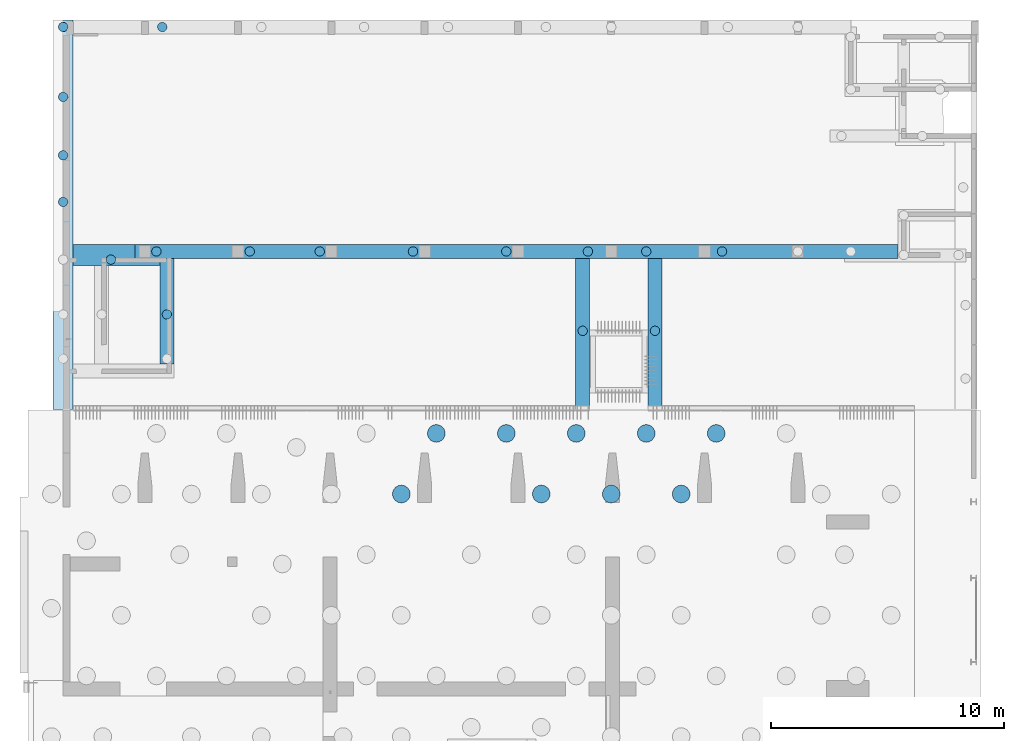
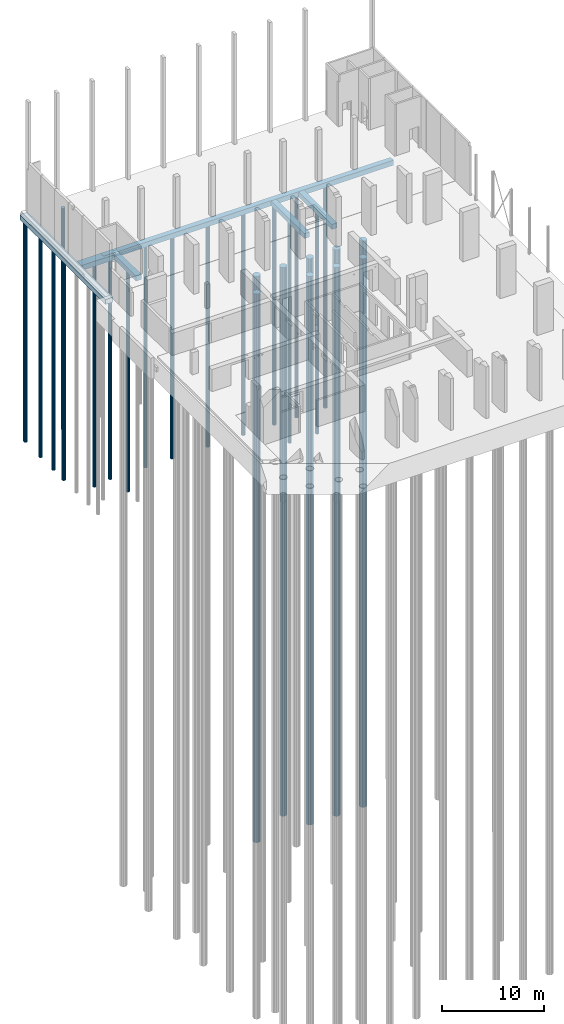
# One storey, part 7 of 26: 26 piles, 6 footings.
"""IFC2X3 building model written with IfcOpenShell, lengths in millimetres."""

import ifcopenshell
import ifcopenshell.guid

model = None  # the IFC model being written
_history = None  # IfcOwnerHistory: only IFC2X3 demands one
_inside = {}  # id of a spatial element -> (the spatial element, [elements in it])
_under = {}  # id of a project, library or spatial element -> (it, [spatial elements below it])
_declared = {}  # id of a project -> (the project, [libraries it declares])
_typed = {}  # id of a type object -> (the type object, [elements of that type])
_made_of = {}  # id of a material, layer set ... -> (it, [elements and type objects made of it])


def new_model(schema):
    """Start an empty IFC model of exactly this schema.

    Asked for "IFC4X3", IfcOpenShell would pick the latest addendum, in which some entities
    have other attributes; the version numbers below select the first issue.
    IFC2X3 requires an IfcOwnerHistory on every rooted entity: one is made here for all.
    """
    global model, _history
    if schema == "IFC4X3":
        model = ifcopenshell.file(schema_version=(4, 3, 0, 0))
    else:
        model = ifcopenshell.file(schema=schema)
    _inside.clear()
    _under.clear()
    _declared.clear()
    _typed.clear()
    _made_of.clear()
    _history = None
    if model.schema == "IFC2X3":
        org = make("IfcOrganization", Name="unknown")
        user = make(
            "IfcPersonAndOrganization",
            ThePerson=make("IfcPerson", FamilyName="unknown"),
            TheOrganization=org,
        )
        app = make(
            "IfcApplication",
            ApplicationDeveloper=org,
            Version="unknown",
            ApplicationFullName="unknown",
            ApplicationIdentifier="unknown",
        )
        _history = make(
            "IfcOwnerHistory",
            OwningUser=user,
            OwningApplication=app,
            ChangeAction="ADDED",
            CreationDate=0,
        )
    return model


def make(cls, **values):
    """One entity of the class cls with the attributes given. An attribute that is None is left unset."""
    return model.create_entity(
        cls, **{name: value for name, value in values.items() if value is not None}
    )


def entity(cls, *values):
    """Any entity or typed value of the class cls, its attributes in the order of the schema. None: left unset."""
    e = model.create_entity(cls)
    for i, value in enumerate(values):
        if value is not None:
            e[i] = value
    return e


def rooted(cls, **values):
    """An entity with a GlobalId (a new one), such as an element, a storey or a relation."""
    return make(cls, GlobalId=ifcopenshell.guid.new(), OwnerHistory=_history, **values)


def si_unit(unit_type, name, prefix=None):
    """IfcSIUnit, for example si_unit("LENGTHUNIT", "METRE", prefix="MILLI")."""
    return make("IfcSIUnit", UnitType=unit_type, Prefix=prefix, Name=name)


def converted_unit(unit_type, name, factor, base, dimensions=None, offset=None):
    """IfcConversionBasedUnit, such as the inch: factor (a typed value) times the base unit."""
    return make(
        "IfcConversionBasedUnit"
        if offset is None
        else "IfcConversionBasedUnitWithOffset",
        ConversionOffset=offset,
        Dimensions=None
        if dimensions is None
        else entity("IfcDimensionalExponents", *dimensions),
        UnitType=unit_type,
        Name=name,
        ConversionFactor=make(
            "IfcMeasureWithUnit", ValueComponent=factor, UnitComponent=base
        ),
    )


def derived_unit(unit_type, elements):
    """IfcDerivedUnit: a product of units, each with its exponent."""
    return make(
        "IfcDerivedUnit",
        Elements=[
            make("IfcDerivedUnitElement", Unit=unit, Exponent=power)
            for unit, power in elements
        ],
        UnitType=unit_type,
    )


def assignment(units):
    """IfcUnitAssignment: the units of a project."""
    return None if units is None else make("IfcUnitAssignment", Units=units)


def point(xyz):
    """IfcCartesianPoint."""
    return None if xyz is None else make("IfcCartesianPoint", Coordinates=xyz)


def direction(xyz):
    """IfcDirection."""
    return None if xyz is None else make("IfcDirection", DirectionRatios=xyz)


def frame(location, z_axis=None, x_axis=None):
    """IfcAxis2Placement3D, a coordinate frame: its origin and axes. An axis left out is left unset."""
    return make(
        "IfcAxis2Placement3D",
        Location=point(location),
        Axis=direction(z_axis),
        RefDirection=direction(x_axis),
    )


def frame_2d(location, x_axis=None):
    """IfcAxis2Placement2D, a coordinate frame in the plane: its origin and x axis."""
    return make(
        "IfcAxis2Placement2D", Location=point(location), RefDirection=direction(x_axis)
    )


def origin():
    """The frame at (0, 0, 0) with its axes left unset."""
    return frame((0.0, 0.0, 0.0))


def place(relative_to, where):
    """IfcLocalPlacement: puts the frame where relative to a parent placement (None: the world)."""
    return make(
        "IfcLocalPlacement", PlacementRelTo=relative_to, RelativePlacement=where
    )


def context(
    kind, dimensions, precision=None, world=None, true_north=None, identifier=None
):
    """IfcGeometricRepresentationContext, for example the 3D "Model" context."""
    return make(
        "IfcGeometricRepresentationContext",
        ContextIdentifier=identifier,
        ContextType=kind,
        CoordinateSpaceDimension=dimensions,
        Precision=precision,
        WorldCoordinateSystem=world,
        TrueNorth=true_north,
    )


def subcontext(parent, identifier, kind, view, scale=None):
    """IfcGeometricRepresentationSubContext, for example "Body" below "Model"."""
    return make(
        "IfcGeometricRepresentationSubContext",
        ContextIdentifier=identifier,
        ContextType=kind,
        ParentContext=parent,
        TargetScale=scale,
        TargetView=view,
    )


def project(units=None, contexts=None):
    """IfcProject with its units and contexts."""
    return rooted(
        "IfcProject",
        Name="project",
        RepresentationContexts=contexts,
        UnitsInContext=assignment(units),
    )


def spatial(cls, under=None, at=None, **own):
    """A site, building, storey or space (cls), placed at a placement, below another one or the project."""
    s = rooted(cls, ObjectPlacement=at, **own)
    if under is not None:
        _under.setdefault(under.id(), (under, []))[1].append(s)
    return s


def polyline(points):
    """IfcPolyline through the points."""
    return make("IfcPolyline", Points=[point(p) for p in points])


def profile(cls, at=None, kind="AREA", **sizes):
    """A parametric profile (cls). Its sizes go by their IFC names, for example OverallWidth=200.0."""
    return make(cls, ProfileType=kind, Position=at, **sizes)


def rectangle(**sizes):
    """IfcRectangleProfileDef."""
    return profile("IfcRectangleProfileDef", **sizes)


def outline(outer, holes=None, kind="AREA"):
    """IfcArbitraryClosedProfileDef: a profile drawn as a closed curve; with holes, ...WithVoids."""
    if holes is None:
        return make("IfcArbitraryClosedProfileDef", ProfileType=kind, OuterCurve=outer)
    return make(
        "IfcArbitraryProfileDefWithVoids",
        ProfileType=kind,
        OuterCurve=outer,
        InnerCurves=holes,
    )


def extrude(swept, where, along, depth):
    """IfcExtrudedAreaSolid: the profile swept, set in the frame where, extruded along a direction by depth."""
    return make(
        "IfcExtrudedAreaSolid",
        SweptArea=swept,
        Position=where,
        ExtrudedDirection=direction(along),
        Depth=depth,
    )


def shape(context_of_items, identifier, shape_type, items):
    """IfcShapeRepresentation: the items that make up one representation, for example the "Body"."""
    return make(
        "IfcShapeRepresentation",
        ContextOfItems=context_of_items,
        RepresentationIdentifier=identifier,
        RepresentationType=shape_type,
        Items=items,
    )


def material(Name=None, Category=None):
    """IfcMaterial."""
    return make("IfcMaterial", Name=Name, Category=Category)


def made_of(thing, what):
    """Note that an element or type object is made of a material, layer set ...; save() writes the relation."""
    if what is not None:
        _made_of.setdefault(what.id(), (what, []))[1].append(thing)
    return thing


def element(
    cls,
    number,
    at=None,
    inside=None,
    cuts=None,
    type_object=None,
    material=None,
    context=None,
    identifier="Body",
    shape_type=None,
    held_by="IfcProductDefinitionShape",
    body=None,
    shapes=None,
    **own,
):
    """One element of the class cls, such as IfcWall. Its Tag is "e" and its number.

    at: its placement. inside: the storey or other place that contains it. cuts: it is an
    opening in that element (IfcRelVoidsElement). A single representation is given by context,
    identifier, shape_type and body (its items); several are given by shapes. held_by: the class
    of the entity that holds the representations. save() writes the other relations.
    """
    e = rooted(cls, Tag="e%d" % number, ObjectPlacement=at, **own)
    if body is not None:
        shapes = [shape(context, identifier, shape_type, body)]
    if shapes is not None:
        e.Representation = make(held_by, Representations=shapes)
    if inside is not None:
        _inside.setdefault(inside.id(), (inside, []))[1].append(e)
    if cuts is not None:
        rooted(
            "IfcRelVoidsElement", RelatingBuildingElement=cuts, RelatedOpeningElement=e
        )
    if type_object is not None:
        _typed.setdefault(type_object.id(), (type_object, []))[1].append(e)
    return made_of(e, material)


def aggregate(whole, parts):
    """IfcRelAggregates: a whole, such as a stair, and the parts it consists of."""
    return rooted("IfcRelAggregates", RelatingObject=whole, RelatedObjects=parts)


def save(model, path):
    """Write the relations noted so far, then the file.

    IfcRelAggregates (storeys below a building ...), IfcRelContainedInSpatialStructure (elements
    in a storey), IfcRelDefinesByType, IfcRelAssociatesMaterial and IfcRelDeclares: one each for
    every whole, place, type object, material and project.
    """
    for whole, parts in _under.values():
        aggregate(whole, parts)
    for where, things in _inside.values():
        rooted(
            "IfcRelContainedInSpatialStructure",
            RelatedElements=things,
            RelatingStructure=where,
        )
    for kind, things in _typed.values():
        rooted("IfcRelDefinesByType", RelatedObjects=things, RelatingType=kind)
    for what, things in _made_of.values():
        rooted("IfcRelAssociatesMaterial", RelatedObjects=things, RelatingMaterial=what)
    for by, libraries in _declared.values():
        rooted("IfcRelDeclares", RelatingContext=by, RelatedDefinitions=libraries)
    model.write(path)


model = new_model("IFC2X3")

# Units and contexts
model_context = context("Model", 3, precision=0.01, world=origin(), true_north=direction((6.12303176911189e-17, 1.0)))
body_context = subcontext(model_context, "Body", "Model", "MODEL_VIEW")
ifc_project = project(units=[si_unit("LENGTHUNIT", "METRE", prefix="MILLI"), si_unit("AREAUNIT", "SQUARE_METRE"), si_unit("VOLUMEUNIT", "CUBIC_METRE"), converted_unit("PLANEANGLEUNIT", "DEGREE", entity("IfcRatioMeasure", 0.0174532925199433), si_unit("PLANEANGLEUNIT", "RADIAN"), dimensions=[0, 0, 0, 0, 0, 0, 0]), si_unit("MASSUNIT", "GRAM", prefix="KILO"), derived_unit("MASSDENSITYUNIT", [(si_unit("MASSUNIT", "GRAM", prefix="KILO"), 1), (si_unit("LENGTHUNIT", "METRE"), -3)]), si_unit("TIMEUNIT", "SECOND"), si_unit("FREQUENCYUNIT", "HERTZ"), si_unit("THERMODYNAMICTEMPERATUREUNIT", "DEGREE_CELSIUS"), derived_unit("THERMALTRANSMITTANCEUNIT", [(si_unit("MASSUNIT", "GRAM", prefix="KILO"), 1), (si_unit("THERMODYNAMICTEMPERATUREUNIT", "KELVIN"), -1), (si_unit("TIMEUNIT", "SECOND"), -3)]), derived_unit("VOLUMETRICFLOWRATEUNIT", [(si_unit("LENGTHUNIT", "METRE"), 3), (si_unit("TIMEUNIT", "SECOND"), -1)]), si_unit("ELECTRICCURRENTUNIT", "AMPERE"), si_unit("ELECTRICVOLTAGEUNIT", "VOLT"), si_unit("POWERUNIT", "WATT"), si_unit("FORCEUNIT", "NEWTON", prefix="KILO"), si_unit("ILLUMINANCEUNIT", "LUX"), si_unit("LUMINOUSFLUXUNIT", "LUMEN"), si_unit("LUMINOUSINTENSITYUNIT", "CANDELA"), derived_unit("USERDEFINED", [(si_unit("MASSUNIT", "GRAM", prefix="KILO"), -1), (si_unit("LENGTHUNIT", "METRE"), -2), (si_unit("TIMEUNIT", "SECOND"), 3), (si_unit("LUMINOUSFLUXUNIT", "LUMEN"), 1)]), derived_unit("LINEARVELOCITYUNIT", [(si_unit("LENGTHUNIT", "METRE"), 1), (si_unit("TIMEUNIT", "SECOND"), -1)]), si_unit("PRESSUREUNIT", "PASCAL"), derived_unit("USERDEFINED", [(si_unit("LENGTHUNIT", "METRE"), -2), (si_unit("MASSUNIT", "GRAM", prefix="KILO"), 1), (si_unit("TIMEUNIT", "SECOND"), -2)])], contexts=[model_context])

# Site, building, storey
site_placement = place(None, origin())
site = spatial("IfcSite", under=ifc_project, at=site_placement, Name="Default", CompositionType="ELEMENT")
building_placement = place(site_placement, origin())
building = spatial("IfcBuilding", under=site, at=building_placement, Name="niet gebruiken", CompositionType="ELEMENT")
storey_placement = place(building_placement, origin())
storey = spatial("IfcBuildingStorey", under=building, at=storey_placement, Name="00 begane grond", CompositionType="ELEMENT", Elevation=0.0)

# Footings
ifc_material = material(Name="NLRS_f2_beton ihwg")
footing_1_placement = place(storey_placement, origin())
element("IfcFooting", 1, at=footing_1_placement, inside=storey, material=ifc_material, Name="NLRS_16.12_SF_WPB_funderingsbalk ihwg recht_gen:600x600", ObjectType="NLRS_16.12_SF_WPB_funderingsbalk ihwg recht_gen:600x600", PredefinedType="FOOTING_BEAM", context=body_context, shape_type="SweptSolid", body=[
    extrude(rectangle(XDim=32700.0000000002, YDim=599.999999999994, at=frame_2d((-1497.49999999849, 191.666666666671), x_axis=(1.0, 0.0))), frame((145187.499999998, 43308.3333333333, -1200.0)), (0.0, 0.0, 1.0), 599.999999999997),
])
footing_2_placement = place(storey_placement, origin())
element("IfcFooting", 2, at=footing_2_placement, inside=storey, material=ifc_material, Name="NLRS_16.12_SF_WPB_funderingsbalk ihwg recht_gen:600x600", ObjectType="NLRS_16.12_SF_WPB_funderingsbalk ihwg recht_gen:600x600", PredefinedType="FOOTING_BEAM", context=body_context, shape_type="SweptSolid", body=[
    extrude(rectangle(XDim=4530.00000000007, YDim=599.999999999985, at=frame_2d((-393.000000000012, -59.9999999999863), x_axis=(1.0, 0.0))), frame((128640.0, 41328.0, -1200.0), z_axis=(0.0, 0.0, 1.0), x_axis=(0.0, 1.0, 0.0)), (0.0, 0.0, 1.0), 599.999999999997),
])
footing_3_placement = place(storey_placement, origin())
element("IfcFooting", 3, at=footing_3_placement, inside=storey, material=ifc_material, Name="NLRS_16.12_SF_WPB_funderingsbalk ihwg recht_gen:850x600", ObjectType="NLRS_16.12_SF_WPB_funderingsbalk ihwg recht_gen:850x600", PredefinedType="FOOTING_BEAM", context=body_context, shape_type="SweptSolid", body=[
    extrude(rectangle(XDim=16705.0000000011, YDim=849.999999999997, at=frame_2d((615.357142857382, -182.142857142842), x_axis=(1.0, 0.0))), frame((124432.142857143, 45687.8571428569, -1200.0), z_axis=(0.0, 0.0, 1.0), x_axis=(0.0, -1.0, 0.0)), (0.0, 0.0, 1.0), 599.999999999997),
])
footing_4_placement = place(storey_placement, origin())
element("IfcFooting", 4, at=footing_4_placement, inside=storey, material=ifc_material, Name="NLRS_16.12_SF_WPB_funderingsbalk ihwg recht_gen:900x600", ObjectType="NLRS_16.12_SF_WPB_funderingsbalk ihwg recht_gen:900x600", PredefinedType="FOOTING_BEAM", context=body_context, shape_type="SweptSolid", body=[
    extrude(outline(polyline([(-1903.74999999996, -300.0), (-978.749999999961, -300.0), (-378.749999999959, -300.0), (1821.25000000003, -300.0), (1821.25000000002, 0.0), (761.249999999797, 0.0), (761.249999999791, 600.0), (-1903.74999999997, 600.0), (-1903.74999999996, -300.0)])), frame((126578.75, 43200.0, -1200.0)), (0.0, 0.0, 1.0), 599.999999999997),
])

# Piles
pile_1_placement = place(storey_placement, origin())
element("IfcPile", 5, at=pile_1_placement, inside=storey, material=ifc_material, Name="NLRS_17.12_SFO_TLB_funderingspaal grondverdringend_gen:Tubex_r762/950", ObjectType="NLRS_17.12_SFO_TLB_funderingspaal grondverdringend_gen:Tubex_r762/950", context=body_context, shape_type="SweptSolid", body=[
    extrude(outline(polyline([(-33.206337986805, -379.550179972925), (33.2063379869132, -379.550179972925), (161.017557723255, -345.303266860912), (269.407683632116, -269.407683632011), (345.303266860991, -161.017557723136), (379.550179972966, -33.2063379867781), (368.017739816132, 98.6100561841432), (312.096928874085, 218.532622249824), (218.532622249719, 312.096928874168), (98.610056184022, 368.017739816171), (33.2063379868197, 379.550179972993), (-33.2063379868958, 379.550179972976), (-161.01755772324, 345.30326686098), (-269.407683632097, 269.407683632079), (-345.303266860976, 161.017557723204), (-379.550179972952, 33.2063379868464), (-368.017739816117, -98.6100561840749), (-312.096928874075, -218.532622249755), (-218.532622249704, -312.096928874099), (-98.6100561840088, -368.01773981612), (-33.206337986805, -379.550179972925)])), frame((140250.0, 35700.0, -68100.0), z_axis=(0.0, 0.0, 1.0), x_axis=(0.087155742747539, -0.996194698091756, 0.0)), (0.0, 0.0, 1.0), 65380.0),
])
pile_2_placement = place(storey_placement, origin())
element("IfcPile", 6, at=pile_2_placement, inside=storey, material=ifc_material, Name="NLRS_17.12_SFO_TLB_funderingspaal grondverdringend_gen:Tubex_r762/950", ObjectType="NLRS_17.12_SFO_TLB_funderingspaal grondverdringend_gen:Tubex_r762/950", context=body_context, shape_type="SweptSolid", body=[
    extrude(outline(polyline([(-33.2063379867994, -379.55017997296), (33.2063379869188, -379.55017997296), (161.017557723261, -345.303266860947), (269.407683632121, -269.407683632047), (345.303266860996, -161.017557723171), (379.550179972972, -33.2063379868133), (368.017739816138, 98.6100561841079), (312.096928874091, 218.532622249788), (218.532622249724, 312.096928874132), (98.6100561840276, 368.017739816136), (33.2063379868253, 379.550179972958), (-33.2063379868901, 379.55017997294), (-161.017557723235, 345.303266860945), (-269.407683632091, 269.407683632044), (-345.303266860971, 161.017557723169), (-379.550179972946, 33.2063379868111), (-368.017739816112, -98.6100561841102), (-312.096928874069, -218.53262224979), (-218.532622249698, -312.096928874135), (-98.6100561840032, -368.017739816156), (-33.2063379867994, -379.55017997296)])), frame((143250.0, 35700.0, -68100.0), z_axis=(0.0, 0.0, 1.0), x_axis=(0.087155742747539, -0.996194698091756, 0.0)), (0.0, 0.0, 1.0), 65380.0),
])
pile_3_placement = place(storey_placement, origin())
element("IfcPile", 7, at=pile_3_placement, inside=storey, material=ifc_material, Name="NLRS_17.12_SFO_TLB_funderingspaal grondverdringend_gen:Tubex_r762/950", ObjectType="NLRS_17.12_SFO_TLB_funderingspaal grondverdringend_gen:Tubex_r762/950", context=body_context, shape_type="SweptSolid", body=[
    extrude(outline(polyline([(-33.2063379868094, -379.550179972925), (33.2063379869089, -379.550179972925), (161.017557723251, -345.303266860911), (269.407683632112, -269.407683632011), (345.303266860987, -161.017557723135), (379.550179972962, -33.2063379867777), (368.017739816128, 98.6100561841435), (312.096928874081, 218.532622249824), (218.532622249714, 312.096928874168), (98.6100561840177, 368.017739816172), (33.2063379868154, 379.550179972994), (-33.2063379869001, 379.550179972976), (-161.017557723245, 345.30326686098), (-269.407683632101, 269.40768363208), (-345.303266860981, 161.017557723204), (-379.550179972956, 33.2063379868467), (-368.017739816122, -98.6100561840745), (-312.096928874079, -218.532622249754), (-218.532622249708, -312.096928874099), (-98.6100561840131, -368.01773981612), (-33.2063379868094, -379.550179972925)])), frame((146250.0, 35700.0, -68100.0), z_axis=(0.0, 0.0, 1.0), x_axis=(0.087155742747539, -0.996194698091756, 0.0)), (0.0, 0.0, 1.0), 65380.0),
])
pile_4_placement = place(storey_placement, origin())
element("IfcPile", 8, at=pile_4_placement, inside=storey, material=ifc_material, Name="NLRS_17.12_SFO_TLB_funderingspaal grondverdringend_gen:Tubex_r762/950", ObjectType="NLRS_17.12_SFO_TLB_funderingspaal grondverdringend_gen:Tubex_r762/950", context=body_context, shape_type="SweptSolid", body=[
    extrude(outline(polyline([(-33.2063379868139, -379.550179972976), (33.2063379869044, -379.550179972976), (161.017557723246, -345.303266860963), (269.407683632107, -269.407683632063), (345.303266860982, -161.017557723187), (379.550179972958, -33.2063379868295), (368.017739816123, 98.6100561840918), (312.096928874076, 218.532622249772), (218.53262224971, 312.096928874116), (98.6100561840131, 368.01773981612), (33.2063379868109, 379.550179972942), (-33.2063379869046, 379.550179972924), (-161.017557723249, 345.303266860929), (-269.407683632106, 269.407683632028), (-345.303266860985, 161.017557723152), (-379.550179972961, 33.2063379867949), (-368.017739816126, -98.6100561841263), (-312.096928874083, -218.532622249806), (-218.532622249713, -312.096928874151), (-98.6100561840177, -368.017739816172), (-33.2063379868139, -379.550179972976)])), frame((149250.0, 35700.0, -68100.0), z_axis=(0.0, 0.0, 1.0), x_axis=(0.087155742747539, -0.996194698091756, 0.0)), (0.0, 0.0, 1.0), 65380.0),
])
pile_5_placement = place(storey_placement, origin())
element("IfcPile", 9, at=pile_5_placement, inside=storey, material=ifc_material, Name="NLRS_17.12_SFO_TLB_funderingspaal grondverdringend_gen:Tubex_r762/950", ObjectType="NLRS_17.12_SFO_TLB_funderingspaal grondverdringend_gen:Tubex_r762/950", context=body_context, shape_type="SweptSolid", body=[
    extrude(outline(polyline([(-33.2063379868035, -379.550179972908), (33.2063379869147, -379.550179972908), (161.017557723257, -345.303266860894), (269.407683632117, -269.407683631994), (345.303266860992, -161.017557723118), (379.550179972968, -33.2063379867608), (368.017739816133, 98.6100561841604), (312.096928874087, 218.532622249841), (218.53262224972, 312.096928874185), (98.6100561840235, 368.017739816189), (33.2063379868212, 379.55017997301), (-33.2063379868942, 379.550179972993), (-161.017557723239, 345.303266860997), (-269.407683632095, 269.407683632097), (-345.303266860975, 161.017557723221), (-379.55017997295, 33.2063379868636), (-368.017739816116, -98.6100561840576), (-312.096928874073, -218.532622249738), (-218.532622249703, -312.096928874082), (-98.6100561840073, -368.017739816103), (-33.2063379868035, -379.550179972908)])), frame((152250.0, 35700.0, -68100.0), z_axis=(0.0, 0.0, 1.0), x_axis=(0.087155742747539, -0.996194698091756, 0.0)), (0.0, 0.0, 1.0), 65380.0),
])
pile_6_placement = place(storey_placement, origin())
element("IfcPile", 10, at=pile_6_placement, inside=storey, material=ifc_material, Name="NLRS_17.12_SFO_TLB_funderingspaal grondverdringend_gen:Tubex_r762/950", ObjectType="NLRS_17.12_SFO_TLB_funderingspaal grondverdringend_gen:Tubex_r762/950", context=body_context, shape_type="SweptSolid", body=[
    extrude(outline(polyline([(-33.2063379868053, -379.550179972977), (33.206337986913, -379.550179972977), (161.017557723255, -345.303266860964), (269.407683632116, -269.407683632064), (345.303266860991, -161.017557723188), (379.550179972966, -33.2063379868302), (368.017739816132, 98.610056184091), (312.096928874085, 218.532622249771), (218.532622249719, 312.096928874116), (98.6100561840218, 368.017739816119), (33.2063379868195, 379.550179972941), (-33.206337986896, 379.550179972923), (-161.017557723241, 345.303266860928), (-269.407683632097, 269.407683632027), (-345.303266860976, 161.017557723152), (-379.550179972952, 33.2063379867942), (-368.017739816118, -98.610056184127), (-312.096928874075, -218.532622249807), (-218.532622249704, -312.096928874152), (-98.610056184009, -368.017739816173), (-33.2063379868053, -379.550179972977)])), frame((150750.0, 33100.0, -68100.0), z_axis=(0.0, 0.0, 1.0), x_axis=(0.087155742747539, -0.996194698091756, 0.0)), (0.0, 0.0, 1.0), 65380.0),
])
pile_7_placement = place(storey_placement, origin())
element("IfcPile", 11, at=pile_7_placement, inside=storey, material=ifc_material, Name="NLRS_17.12_SFO_TLB_funderingspaal grondverdringend_gen:Tubex_r762/950", ObjectType="NLRS_17.12_SFO_TLB_funderingspaal grondverdringend_gen:Tubex_r762/950", context=body_context, shape_type="SweptSolid", body=[
    extrude(outline(polyline([(-33.2063379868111, -379.550179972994), (33.2063379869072, -379.550179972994), (161.017557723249, -345.303266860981), (269.40768363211, -269.40768363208), (345.303266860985, -161.017557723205), (379.55017997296, -33.2063379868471), (368.017739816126, 98.6100561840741), (312.096928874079, 218.532622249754), (218.532622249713, 312.096928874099), (98.6100561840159, 368.017739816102), (33.2063379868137, 379.550179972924), (-33.2063379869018, 379.550179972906), (-161.017557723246, 345.303266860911), (-269.407683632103, 269.40768363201), (-345.303266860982, 161.017557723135), (-379.550179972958, 33.2063379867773), (-368.017739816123, -98.6100561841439), (-312.096928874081, -218.532622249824), (-218.53262224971, -312.096928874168), (-98.6100561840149, -368.01773981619), (-33.2063379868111, -379.550179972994)])), frame((147750.0, 33100.0, -68100.0), z_axis=(0.0, 0.0, 1.0), x_axis=(0.087155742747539, -0.996194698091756, 0.0)), (0.0, 0.0, 1.0), 65380.0),
])
pile_8_placement = place(storey_placement, origin())
element("IfcPile", 12, at=pile_8_placement, inside=storey, material=ifc_material, Name="NLRS_17.12_SFO_TLB_funderingspaal grondverdringend_gen:Tubex_r762/950", ObjectType="NLRS_17.12_SFO_TLB_funderingspaal grondverdringend_gen:Tubex_r762/950", context=body_context, shape_type="SweptSolid", body=[
    extrude(outline(polyline([(-33.2063379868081, -379.550179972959), (33.2063379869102, -379.550179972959), (161.017557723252, -345.303266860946), (269.407683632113, -269.407683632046), (345.303266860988, -161.01755772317), (379.550179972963, -33.2063379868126), (368.017739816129, 98.6100561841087), (312.096928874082, 218.532622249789), (218.532622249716, 312.096928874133), (98.610056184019, 368.017739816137), (33.2063379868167, 379.550179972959), (-33.2063379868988, 379.550179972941), (-161.017557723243, 345.303266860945), (-269.4076836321, 269.407683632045), (-345.303266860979, 161.017557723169), (-379.550179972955, 33.2063379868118), (-368.01773981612, -98.6100561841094), (-312.096928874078, -218.532622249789), (-218.532622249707, -312.096928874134), (-98.6100561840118, -368.017739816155), (-33.2063379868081, -379.550179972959)])), frame((144750.0, 33100.0, -68100.0), z_axis=(0.0, 0.0, 1.0), x_axis=(0.087155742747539, -0.996194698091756, 0.0)), (0.0, 0.0, 1.0), 65380.0),
])
pile_9_placement = place(storey_placement, origin())
element("IfcPile", 13, at=pile_9_placement, inside=storey, material=ifc_material, Name="NLRS_17.12_SFO_TLB_funderingspaal grondverdringend_gen:Tubex_r762/950", ObjectType="NLRS_17.12_SFO_TLB_funderingspaal grondverdringend_gen:Tubex_r762/950", context=body_context, shape_type="SweptSolid", body=[
    extrude(outline(polyline([(-33.2063379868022, -379.550179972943), (33.206337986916, -379.550179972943), (161.017557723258, -345.303266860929), (269.407683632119, -269.407683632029), (345.303266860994, -161.017557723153), (379.550179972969, -33.2063379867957), (368.017739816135, 98.6100561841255), (312.096928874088, 218.532622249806), (218.532622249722, 312.09692887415), (98.6100561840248, 368.017739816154), (33.2063379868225, 379.550179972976), (-33.2063379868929, 379.550179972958), (-161.017557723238, 345.303266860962), (-269.407683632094, 269.407683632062), (-345.303266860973, 161.017557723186), (-379.550179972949, 33.2063379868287), (-368.017739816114, -98.6100561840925), (-312.096928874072, -218.532622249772), (-218.532622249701, -312.096928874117), (-98.610056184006, -368.017739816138), (-33.2063379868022, -379.550179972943)])), frame((138750.0, 33100.0, -68100.0), z_axis=(0.0, 0.0, 1.0), x_axis=(0.087155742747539, -0.996194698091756, 0.0)), (0.0, 0.0, 1.0), 65380.0),
])
pile_10_placement = place(storey_placement, origin())
element("IfcPile", 14, at=pile_10_placement, inside=storey, material=ifc_material, Name="NLRS_17.12_SFO_TLB_funderingspaal grondverdringend_gen:Fundex_r410/500", ObjectType="NLRS_17.12_SFO_TLB_funderingspaal grondverdringend_gen:Fundex_r410/500", context=body_context, shape_type="SweptSolid", body=[
    extrude(outline(polyline([(-49.0597111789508, -199.04307257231), (49.0597111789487, -199.04307257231), (135.940144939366, -153.444703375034), (191.678329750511, -72.6940018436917), (203.505319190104, 24.7100194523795), (168.711692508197, 116.453273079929), (95.268250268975, 181.518485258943), (49.0597111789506, 199.043072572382), (-49.0597111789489, 199.043072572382), (-135.940144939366, 153.444703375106), (-191.678329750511, 72.6940018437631), (-203.505319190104, -24.7100194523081), (-168.711692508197, -116.453273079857), (-95.2682502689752, -181.518485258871), (-49.0597111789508, -199.04307257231)])), frame((128500.0, 53125.0, -27600.0), z_axis=(0.0, 0.0, 1.0), x_axis=(0.239315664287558, -0.970941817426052, 0.0)), (0.0, 0.0, 1.0), 26420.0),
])
pile_11_placement = place(storey_placement, origin())
element("IfcPile", 15, at=pile_11_placement, inside=storey, material=ifc_material, Name="NLRS_17.12_SFO_TLB_funderingspaal grondverdringend_gen:Fundex_r410/500", ObjectType="NLRS_17.12_SFO_TLB_funderingspaal grondverdringend_gen:Fundex_r410/500", context=body_context, shape_type="SweptSolid", body=[
    extrude(outline(polyline([(-49.0597111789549, -199.043072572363), (49.0597111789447, -199.043072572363), (135.940144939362, -153.444703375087), (191.678329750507, -72.6940018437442), (203.5053191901, 24.7100194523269), (168.711692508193, 116.453273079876), (95.2682502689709, 181.51848525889), (49.0597111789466, 199.043072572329), (-49.059711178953, 199.043072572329), (-135.94014493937, 153.444703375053), (-191.678329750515, 72.6940018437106), (-203.505319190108, -24.7100194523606), (-168.711692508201, -116.45327307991), (-95.2682502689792, -181.518485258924), (-49.0597111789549, -199.043072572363)])), frame((152500.0, 43500.0, -27600.0), z_axis=(0.0, 0.0, 1.0), x_axis=(0.239315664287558, -0.970941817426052, 0.0)), (0.0, 0.0, 1.0), 26420.0),
])
pile_12_placement = place(storey_placement, origin())
element("IfcPile", 16, at=pile_12_placement, inside=storey, material=ifc_material, Name="NLRS_17.12_SFO_TLB_funderingspaal grondverdringend_gen:Fundex_r410/500", ObjectType="NLRS_17.12_SFO_TLB_funderingspaal grondverdringend_gen:Fundex_r410/500", context=body_context, shape_type="SweptSolid", body=[
    extrude(outline(polyline([(-49.059711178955, -199.043072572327), (49.0597111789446, -199.043072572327), (135.940144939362, -153.444703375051), (191.678329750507, -72.6940018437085), (203.5053191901, 24.7100194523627), (168.711692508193, 116.453273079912), (95.2682502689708, 181.518485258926), (49.0597111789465, 199.043072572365), (-49.0597111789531, 199.043072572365), (-135.94014493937, 153.444703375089), (-191.678329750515, 72.6940018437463), (-203.505319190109, -24.7100194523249), (-168.711692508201, -116.453273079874), (-95.2682502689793, -181.518485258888), (-49.059711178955, -199.043072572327)])), frame((146750.0, 43500.0, -27600.0), z_axis=(0.0, 0.0, 1.0), x_axis=(0.239315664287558, -0.970941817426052, 0.0)), (0.0, 0.0, 1.0), 26420.0),
])
pile_13_placement = place(storey_placement, origin())
element("IfcPile", 17, at=pile_13_placement, inside=storey, material=ifc_material, Name="NLRS_17.12_SFO_TLB_funderingspaal grondverdringend_gen:Fundex_r410/500", ObjectType="NLRS_17.12_SFO_TLB_funderingspaal grondverdringend_gen:Fundex_r410/500", context=body_context, shape_type="SweptSolid", body=[
    extrude(outline(polyline([(-49.0597111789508, -199.04307257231), (49.0597111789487, -199.04307257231), (135.940144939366, -153.444703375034), (191.678329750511, -72.6940018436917), (203.505319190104, 24.7100194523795), (168.711692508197, 116.453273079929), (95.268250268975, 181.518485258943), (49.0597111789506, 199.043072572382), (-49.0597111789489, 199.043072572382), (-135.940144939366, 153.444703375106), (-191.678329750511, 72.6940018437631), (-203.505319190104, -24.7100194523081), (-168.711692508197, -116.453273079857), (-95.2682502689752, -181.518485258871), (-49.0597111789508, -199.04307257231)])), frame((143250.0, 43500.0, -27600.0), z_axis=(0.0, 0.0, 1.0), x_axis=(0.239315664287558, -0.970941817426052, 0.0)), (0.0, 0.0, 1.0), 26420.0),
])
pile_14_placement = place(storey_placement, origin())
element("IfcPile", 18, at=pile_14_placement, inside=storey, material=ifc_material, Name="NLRS_17.12_SFO_TLB_funderingspaal grondverdringend_gen:Fundex_r410/500", ObjectType="NLRS_17.12_SFO_TLB_funderingspaal grondverdringend_gen:Fundex_r410/500", context=body_context, shape_type="SweptSolid", body=[
    extrude(outline(polyline([(-49.0597111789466, -199.043072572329), (49.059711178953, -199.043072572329), (135.94014493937, -153.444703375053), (191.678329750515, -72.6940018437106), (203.505319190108, 24.7100194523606), (168.711692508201, 116.45327307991), (95.2682502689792, 181.518485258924), (49.0597111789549, 199.043072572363), (-49.0597111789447, 199.043072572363), (-135.940144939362, 153.444703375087), (-191.678329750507, 72.6940018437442), (-203.5053191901, -24.7100194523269), (-168.711692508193, -116.453273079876), (-95.2682502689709, -181.51848525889), (-49.0597111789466, -199.043072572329)])), frame((139250.0, 43500.0, -27600.0), z_axis=(0.0, 0.0, 1.0), x_axis=(0.239315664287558, -0.970941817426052, 0.0)), (0.0, 0.0, 1.0), 26420.0),
])
pile_15_placement = place(storey_placement, origin())
element("IfcPile", 19, at=pile_15_placement, inside=storey, material=ifc_material, Name="NLRS_17.12_SFO_TLB_funderingspaal grondverdringend_gen:Fundex_r410/500", ObjectType="NLRS_17.12_SFO_TLB_funderingspaal grondverdringend_gen:Fundex_r410/500", context=body_context, shape_type="SweptSolid", body=[
    extrude(outline(polyline([(-49.0597111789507, -199.043072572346), (49.0597111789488, -199.043072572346), (135.940144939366, -153.44470337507), (191.678329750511, -72.6940018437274), (203.505319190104, 24.7100194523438), (168.711692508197, 116.453273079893), (95.2682502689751, 181.518485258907), (49.0597111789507, 199.043072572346), (-49.0597111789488, 199.043072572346), (-135.940144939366, 153.44470337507), (-191.678329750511, 72.6940018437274), (-203.505319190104, -24.7100194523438), (-168.711692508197, -116.453273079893), (-95.2682502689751, -181.518485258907), (-49.0597111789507, -199.043072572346)])), frame((135250.0, 43500.0, -27600.0), z_axis=(0.0, 0.0, 1.0), x_axis=(0.239315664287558, -0.970941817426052, 0.0)), (0.0, 0.0, 1.0), 26420.0),
])
pile_16_placement = place(storey_placement, origin())
element("IfcPile", 20, at=pile_16_placement, inside=storey, material=ifc_material, Name="NLRS_17.12_SFO_TLB_funderingspaal grondverdringend_gen:Fundex_r410/500", ObjectType="NLRS_17.12_SFO_TLB_funderingspaal grondverdringend_gen:Fundex_r410/500", context=body_context, shape_type="SweptSolid", body=[
    extrude(outline(polyline([(-49.0597111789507, -199.043072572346), (49.0597111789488, -199.043072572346), (135.940144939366, -153.44470337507), (191.678329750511, -72.6940018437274), (203.505319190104, 24.7100194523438), (168.711692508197, 116.453273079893), (95.2682502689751, 181.518485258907), (49.0597111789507, 199.043072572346), (-49.0597111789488, 199.043072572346), (-135.940144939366, 153.44470337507), (-191.678329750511, 72.6940018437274), (-203.505319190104, -24.7100194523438), (-168.711692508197, -116.453273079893), (-95.2682502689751, -181.518485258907), (-49.0597111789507, -199.043072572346)])), frame((132250.0, 43500.0, -27600.0), z_axis=(0.0, 0.0, 1.0), x_axis=(0.239315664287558, -0.970941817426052, 0.0)), (0.0, 0.0, 1.0), 26420.0),
])
pile_17_placement = place(storey_placement, origin())
element("IfcPile", 21, at=pile_17_placement, inside=storey, material=ifc_material, Name="NLRS_17.12_SFO_TLB_funderingspaal grondverdringend_gen:Fundex_r410/500", ObjectType="NLRS_17.12_SFO_TLB_funderingspaal grondverdringend_gen:Fundex_r410/500", context=body_context, shape_type="SweptSolid", body=[
    extrude(outline(polyline([(-49.0597111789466, -199.043072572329), (49.059711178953, -199.043072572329), (135.94014493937, -153.444703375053), (191.678329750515, -72.6940018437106), (203.505319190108, 24.7100194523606), (168.711692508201, 116.45327307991), (95.2682502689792, 181.518485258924), (49.0597111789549, 199.043072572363), (-49.0597111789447, 199.043072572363), (-135.940144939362, 153.444703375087), (-191.678329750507, 72.6940018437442), (-203.5053191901, -24.7100194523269), (-168.711692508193, -116.453273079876), (-95.2682502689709, -181.51848525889), (-49.0597111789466, -199.043072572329)])), frame((126300.0, 43150.0, -27600.0), z_axis=(0.0, 0.0, 1.0), x_axis=(0.239315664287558, -0.970941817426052, 0.0)), (0.0, 0.0, 1.0), 26420.0),
])
pile_18_placement = place(storey_placement, origin())
element("IfcPile", 22, at=pile_18_placement, inside=storey, material=ifc_material, Name="NLRS_17.12_SFO_TLB_funderingspaal grondverdringend_gen:Fundex_r410/500", ObjectType="NLRS_17.12_SFO_TLB_funderingspaal grondverdringend_gen:Fundex_r410/500", context=body_context, shape_type="SweptSolid", body=[
    extrude(outline(polyline([(-49.0597111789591, -199.043072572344), (49.0597111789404, -199.043072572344), (135.940144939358, -153.444703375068), (191.678329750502, -72.6940018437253), (203.505319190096, 24.7100194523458), (168.711692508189, 116.453273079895), (95.2682502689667, 181.518485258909), (49.0597111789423, 199.043072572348), (-49.0597111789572, 199.043072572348), (-135.940144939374, 153.444703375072), (-191.678329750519, 72.6940018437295), (-203.505319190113, -24.7100194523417), (-168.711692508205, -116.453273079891), (-95.2682502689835, -181.518485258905), (-49.0597111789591, -199.043072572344)])), frame((124250.0, 53125.0, -27600.0), z_axis=(0.0, 0.0, 1.0), x_axis=(0.239315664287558, -0.970941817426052, 0.0)), (0.0, 0.0, 1.0), 26420.0),
])
pile_19_placement = place(storey_placement, origin())
element("IfcPile", 23, at=pile_19_placement, inside=storey, material=ifc_material, Name="NLRS_17.12_SFO_TLB_funderingspaal grondverdringend_gen:Fundex_r410/500", ObjectType="NLRS_17.12_SFO_TLB_funderingspaal grondverdringend_gen:Fundex_r410/500", context=body_context, shape_type="SweptSolid", body=[
    extrude(outline(polyline([(-49.0597111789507, -199.043072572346), (49.0597111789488, -199.043072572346), (135.940144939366, -153.44470337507), (191.678329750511, -72.6940018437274), (203.505319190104, 24.7100194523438), (168.711692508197, 116.453273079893), (95.2682502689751, 181.518485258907), (49.0597111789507, 199.043072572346), (-49.0597111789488, 199.043072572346), (-135.940144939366, 153.44470337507), (-191.678329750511, 72.6940018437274), (-203.505319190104, -24.7100194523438), (-168.711692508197, -116.453273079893), (-95.2682502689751, -181.518485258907), (-49.0597111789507, -199.043072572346)])), frame((128700.0, 40800.0, -27600.0), z_axis=(0.0, 0.0, 1.0), x_axis=(0.239315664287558, -0.970941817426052, 0.0)), (0.0, 0.0, 1.0), 26420.0),
])
pile_20_placement = place(storey_placement, origin())
element("IfcPile", 24, at=pile_20_placement, inside=storey, material=ifc_material, Name="NLRS_17.12_SFO_TLB_funderingspaal grondverdringend_gen:Fundex_r410/500", ObjectType="NLRS_17.12_SFO_TLB_funderingspaal grondverdringend_gen:Fundex_r410/500", context=body_context, shape_type="SweptSolid", body=[
    extrude(outline(polyline([(-49.0597111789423, -199.043072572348), (49.0597111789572, -199.043072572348), (135.940144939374, -153.444703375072), (191.678329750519, -72.6940018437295), (203.505319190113, 24.7100194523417), (168.711692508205, 116.453273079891), (95.2682502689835, 181.518485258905), (49.0597111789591, 199.043072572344), (-49.0597111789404, 199.043072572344), (-135.940144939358, 153.444703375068), (-191.678329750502, 72.6940018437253), (-203.505319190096, -24.7100194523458), (-168.711692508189, -116.453273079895), (-95.2682502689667, -181.518485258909), (-49.0597111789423, -199.043072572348)])), frame((124250.0, 50125.0, -27600.0), z_axis=(0.0, 0.0, 1.0), x_axis=(0.239315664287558, -0.970941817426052, 0.0)), (0.0, 0.0, 1.0), 26420.0),
])
pile_21_placement = place(storey_placement, origin())
element("IfcPile", 25, at=pile_21_placement, inside=storey, material=ifc_material, Name="NLRS_17.12_SFO_TLB_funderingspaal grondverdringend_gen:Fundex_r410/500", ObjectType="NLRS_17.12_SFO_TLB_funderingspaal grondverdringend_gen:Fundex_r410/500", context=body_context, shape_type="SweptSolid", body=[
    extrude(outline(polyline([(-49.0597111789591, -199.043072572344), (49.0597111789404, -199.043072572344), (135.940144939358, -153.444703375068), (191.678329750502, -72.6940018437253), (203.505319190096, 24.7100194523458), (168.711692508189, 116.453273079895), (95.2682502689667, 181.518485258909), (49.0597111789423, 199.043072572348), (-49.0597111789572, 199.043072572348), (-135.940144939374, 153.444703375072), (-191.678329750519, 72.6940018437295), (-203.505319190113, -24.7100194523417), (-168.711692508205, -116.453273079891), (-95.2682502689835, -181.518485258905), (-49.0597111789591, -199.043072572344)])), frame((124250.0, 45625.0, -27600.0), z_axis=(0.0, 0.0, 1.0), x_axis=(0.239315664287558, -0.970941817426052, 0.0)), (0.0, 0.0, 1.0), 26420.0),
])
pile_22_placement = place(storey_placement, origin())
element("IfcPile", 26, at=pile_22_placement, inside=storey, material=ifc_material, Name="NLRS_17.12_SFO_TLB_funderingspaal grondverdringend_gen:Fundex_r410/500", ObjectType="NLRS_17.12_SFO_TLB_funderingspaal grondverdringend_gen:Fundex_r410/500", context=body_context, shape_type="SweptSolid", body=[
    extrude(outline(polyline([(-49.0597111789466, -199.043072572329), (49.059711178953, -199.043072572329), (135.94014493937, -153.444703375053), (191.678329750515, -72.6940018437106), (203.505319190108, 24.7100194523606), (168.711692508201, 116.45327307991), (95.2682502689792, 181.518485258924), (49.0597111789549, 199.043072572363), (-49.0597111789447, 199.043072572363), (-135.940144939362, 153.444703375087), (-191.678329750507, 72.6940018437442), (-203.5053191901, -24.7100194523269), (-168.711692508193, -116.453273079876), (-95.2682502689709, -181.51848525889), (-49.0597111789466, -199.043072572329)])), frame((149250.0, 43500.0, -27600.0), z_axis=(0.0, 0.0, 1.0), x_axis=(0.239315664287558, -0.970941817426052, 0.0)), (0.0, 0.0, 1.0), 26420.0),
])
pile_23_placement = place(storey_placement, origin())
element("IfcPile", 27, at=pile_23_placement, inside=storey, material=ifc_material, Name="NLRS_17.12_SFO_TLB_funderingspaal grondverdringend_gen:Fundex_r410/500", ObjectType="NLRS_17.12_SFO_TLB_funderingspaal grondverdringend_gen:Fundex_r410/500", context=body_context, shape_type="SweptSolid", body=[
    extrude(outline(polyline([(-49.059711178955, -199.043072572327), (49.0597111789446, -199.043072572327), (135.940144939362, -153.444703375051), (191.678329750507, -72.6940018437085), (203.5053191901, 24.7100194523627), (168.711692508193, 116.453273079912), (95.2682502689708, 181.518485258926), (49.0597111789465, 199.043072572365), (-49.0597111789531, 199.043072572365), (-135.94014493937, 153.444703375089), (-191.678329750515, 72.6940018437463), (-203.505319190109, -24.7100194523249), (-168.711692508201, -116.453273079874), (-95.2682502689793, -181.518485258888), (-49.059711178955, -199.043072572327)])), frame((149625.0, 40100.0, -27600.0), z_axis=(0.0, 0.0, 1.0), x_axis=(0.239315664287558, -0.970941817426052, 0.0)), (0.0, 0.0, 1.0), 26420.0),
])
pile_24_placement = place(storey_placement, origin())
element("IfcPile", 28, at=pile_24_placement, inside=storey, material=ifc_material, Name="NLRS_17.12_SFO_TLB_funderingspaal grondverdringend_gen:Fundex_r410/500", ObjectType="NLRS_17.12_SFO_TLB_funderingspaal grondverdringend_gen:Fundex_r410/500", context=body_context, shape_type="SweptSolid", body=[
    extrude(outline(polyline([(-49.0597111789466, -199.043072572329), (49.059711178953, -199.043072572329), (135.94014493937, -153.444703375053), (191.678329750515, -72.6940018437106), (203.505319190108, 24.7100194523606), (168.711692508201, 116.45327307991), (95.2682502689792, 181.518485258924), (49.0597111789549, 199.043072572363), (-49.0597111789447, 199.043072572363), (-135.940144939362, 153.444703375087), (-191.678329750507, 72.6940018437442), (-203.5053191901, -24.7100194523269), (-168.711692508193, -116.453273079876), (-95.2682502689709, -181.51848525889), (-49.0597111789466, -199.043072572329)])), frame((146525.0, 40100.0, -27600.0), z_axis=(0.0, 0.0, 1.0), x_axis=(0.239315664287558, -0.970941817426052, 0.0)), (0.0, 0.0, 1.0), 26420.0),
])

# Footings
footing_5_placement = place(storey_placement, origin())
element("IfcFooting", 29, at=footing_5_placement, inside=storey, material=ifc_material, Name="NLRS_16.12_SF_WPB_funderingsbalk ihwg recht_gen:600x600", ObjectType="NLRS_16.12_SF_WPB_funderingsbalk ihwg recht_gen:600x600", PredefinedType="FOOTING_BEAM", context=body_context, shape_type="SweptSolid", body=[
    extrude(rectangle(XDim=6480.00000000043, YDim=599.999999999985, at=frame_2d((0.0, -8.66862137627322e-12), x_axis=(1.0, 0.0))), frame((149625.0, 39960.0, -1200.0), z_axis=(0.0, 0.0, 1.0), x_axis=(0.0, 1.0, 0.0)), (0.0, 0.0, 1.0), 599.999999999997),
])
footing_6_placement = place(storey_placement, origin())
element("IfcFooting", 30, at=footing_6_placement, inside=storey, material=ifc_material, Name="NLRS_16.12_SF_WPB_funderingsbalk ihwg recht_gen:600x600", ObjectType="NLRS_16.12_SF_WPB_funderingsbalk ihwg recht_gen:600x600", PredefinedType="FOOTING_BEAM", context=body_context, shape_type="SweptSolid", body=[
    extrude(rectangle(XDim=6480.00000000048, YDim=599.999999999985, at=frame_2d((-4.32009983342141e-12, 8.66862137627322e-12), x_axis=(1.0, 0.0))), frame((146525.0, 39960.0, -1200.0), z_axis=(0.0, 0.0, 1.0), x_axis=(0.0, 1.0, 0.0)), (0.0, 0.0, 1.0), 599.999999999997),
])

# Piles
pile_25_placement = place(storey_placement, origin())
element("IfcPile", 31, at=pile_25_placement, inside=storey, material=ifc_material, Name="NLRS_17.12_SFO_TLB_funderingspaal grondverdringend_gen:Fundex_r410/500", ObjectType="NLRS_17.12_SFO_TLB_funderingspaal grondverdringend_gen:Fundex_r410/500", context=body_context, shape_type="SweptSolid", body=[
    extrude(outline(polyline([(-49.0597111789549, -199.043072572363), (49.0597111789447, -199.043072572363), (135.940144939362, -153.444703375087), (191.678329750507, -72.6940018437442), (203.5053191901, 24.7100194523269), (168.711692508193, 116.453273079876), (95.2682502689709, 181.51848525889), (49.0597111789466, 199.043072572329), (-49.059711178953, 199.043072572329), (-135.94014493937, 153.444703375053), (-191.678329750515, 72.6940018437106), (-203.505319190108, -24.7100194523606), (-168.711692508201, -116.45327307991), (-95.2682502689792, -181.518485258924), (-49.0597111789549, -199.043072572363)])), frame((124250.0, 47625.0, -27600.0), z_axis=(0.0, 0.0, 1.0), x_axis=(0.239315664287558, -0.970941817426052, 0.0)), (0.0, 0.0, 1.0), 26420.0),
])
pile_26_placement = place(storey_placement, origin())
element("IfcPile", 32, at=pile_26_placement, inside=storey, material=ifc_material, Name="NLRS_17.12_SFO_TLB_funderingspaal grondverdringend_gen:Fundex_r410/500", ObjectType="NLRS_17.12_SFO_TLB_funderingspaal grondverdringend_gen:Fundex_r410/500", context=body_context, shape_type="SweptSolid", body=[
    extrude(outline(polyline([(-49.0597111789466, -199.043072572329), (49.059711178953, -199.043072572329), (135.94014493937, -153.444703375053), (191.678329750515, -72.6940018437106), (203.505319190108, 24.7100194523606), (168.711692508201, 116.45327307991), (95.2682502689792, 181.518485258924), (49.0597111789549, 199.043072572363), (-49.0597111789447, 199.043072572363), (-135.940144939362, 153.444703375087), (-191.678329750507, 72.6940018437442), (-203.5053191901, -24.7100194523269), (-168.711692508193, -116.453273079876), (-95.2682502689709, -181.51848525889), (-49.0597111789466, -199.043072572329)])), frame((128250.0, 43500.0, -27600.0), z_axis=(0.0, 0.0, 1.0), x_axis=(0.239315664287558, -0.970941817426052, 0.0)), (0.0, 0.0, 1.0), 26420.0),
])

save(model, "model.ifc")
